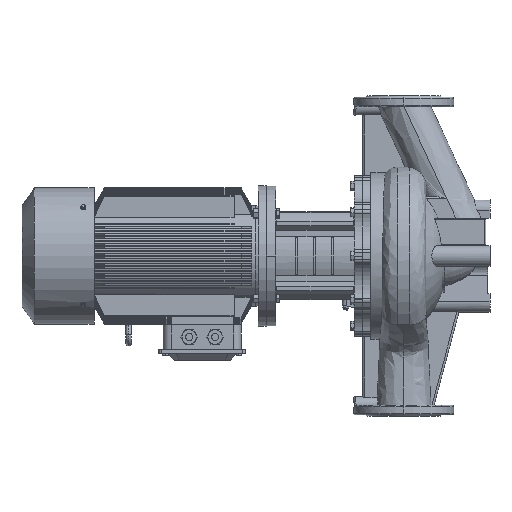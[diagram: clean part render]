
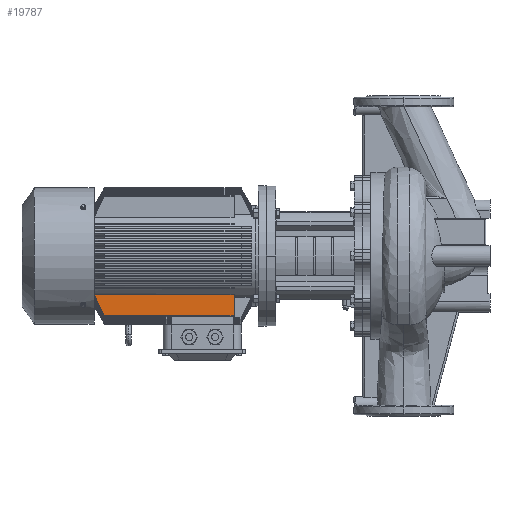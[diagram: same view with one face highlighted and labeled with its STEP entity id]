
A CAD part, left-side view. The second image highlights one B-rep face of the part: STEP entity #19787.
In plain terms, the highlighted planar face has unit normal (-1, 0, 0).
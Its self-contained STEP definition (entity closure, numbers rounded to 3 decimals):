
#425 = CARTESIAN_POINT ( 'NONE',  ( -80.863, 774., -96.368 ) ) ;
#3742 = CARTESIAN_POINT ( 'NONE',  ( -80.863, 765.353, -115.239 ) ) ;
#4096 = CARTESIAN_POINT ( 'NONE',  ( -80.863, 767.793, -110.033 ) ) ;
#5795 = CARTESIAN_POINT ( 'NONE',  ( -80.863, 770.054, -105.169 ) ) ;
#6335 = EDGE_CURVE ( 'NONE', #60501, #20658, #41556, .T. ) ;
#8453 = AXIS2_PLACEMENT_3D ( 'NONE', #14333, #13989, #56950 ) ;
#9850 = CARTESIAN_POINT ( 'NONE',  ( -80.863, 767.684, -110.268 ) ) ;
#11173 = CARTESIAN_POINT ( 'NONE',  ( -80.863, 753.143, -140.307 ) ) ;
#11536 = CARTESIAN_POINT ( 'NONE',  ( -80.863, 760.71, -124.934 ) ) ;
#12861 = ORIENTED_EDGE ( 'NONE', *, *, #6335, .T. ) ;
#13657 = DIRECTION ( 'NONE',  ( 0., -1., 0. ) ) ;
#13989 = DIRECTION ( 'NONE',  ( 1., 0., 0. ) ) ;
#14333 = CARTESIAN_POINT ( 'NONE',  ( -80.863, 774., -149.537 ) ) ;
#14861 = CARTESIAN_POINT ( 'NONE',  ( -80.863, 762.693, -120.828 ) ) ;
#15212 = CARTESIAN_POINT ( 'NONE',  ( -80.863, 757.486, -131.539 ) ) ;
#16542 = CARTESIAN_POINT ( 'NONE',  ( -80.863, 767.887, -109.832 ) ) ;
#17431 = VERTEX_POINT ( 'NONE', #27380 ) ;
#19787 = ADVANCED_FACE ( 'NONE', ( #62997 ), #62639, .F. ) ;
#19881 = CARTESIAN_POINT ( 'NONE',  ( -80.863, 766.641, -112.5 ) ) ;
#20601 = CARTESIAN_POINT ( 'NONE',  ( -80.863, 767.894, -109.816 ) ) ;
#20658 = VERTEX_POINT ( 'NONE', #27518 ) ;
#20951 = CARTESIAN_POINT ( 'NONE',  ( -80.863, 767.871, -109.865 ) ) ;
#25265 = CARTESIAN_POINT ( 'NONE',  ( -80.863, 761.367, -123.575 ) ) ;
#25487 = LINE ( 'NONE', #63722, #63055 ) ;
#26331 = CARTESIAN_POINT ( 'NONE',  ( -80.863, 765.872, -114.138 ) ) ;
#26556 = DIRECTION ( 'NONE',  ( 0., 0., -1. ) ) ;
#27380 = CARTESIAN_POINT ( 'NONE',  ( -80.863, 424.4, -96.368 ) ) ;
#27518 = CARTESIAN_POINT ( 'NONE',  ( -80.863, 424.4, -149.537 ) ) ;
#27671 = CARTESIAN_POINT ( 'NONE',  ( -80.863, 748.481, -149.537 ) ) ;
#30843 = CARTESIAN_POINT ( 'NONE',  ( -80.863, 774., -149.537 ) ) ;
#33018 = CARTESIAN_POINT ( 'NONE',  ( -80.863, 761.149, -124.027 ) ) ;
#33376 = CARTESIAN_POINT ( 'NONE',  ( -80.863, 756.419, -133.704 ) ) ;
#36355 = CARTESIAN_POINT ( 'NONE',  ( -80.863, 763.773, -118.57 ) ) ;
#37067 = CARTESIAN_POINT ( 'NONE',  ( -80.863, 767.848, -109.916 ) ) ;
#37929 = VECTOR ( 'NONE', #67998, 1000. ) ;
#38376 = ORIENTED_EDGE ( 'NONE', *, *, #60647, .F. ) ;
#40466 = LINE ( 'NONE', #61208, #37929 ) ;
#41556 = LINE ( 'NONE', #30843, #46663 ) ;
#42774 = CARTESIAN_POINT ( 'NONE',  ( -80.863, 761.57, -123.156 ) ) ;
#43314 = ORIENTED_EDGE ( 'NONE', *, *, #47355, .F. ) ;
#44098 = CARTESIAN_POINT ( 'NONE',  ( -80.863, 761.554, -123.188 ) ) ;
#46663 = VECTOR ( 'NONE', #13657, 1000. ) ;
#47355 = EDGE_CURVE ( 'NONE', #60501, #69359, #51425, .T. ) ;
#47781 = CARTESIAN_POINT ( 'NONE',  ( -80.863, 750.861, -144.851 ) ) ;
#49468 = CARTESIAN_POINT ( 'NONE',  ( -80.863, 772.087, -100.694 ) ) ;
#51425 = B_SPLINE_CURVE_WITH_KNOTS ( 'NONE', 3,
 ( #27671, #47781, #11173, #33376, #15212, #63862, #58519, #11536, #33018, #25265, #53501, #52794, #44098, #42774, #68891, #14861, #36355, #3742, #26331, #19881, #53145, #54830, #9850, #4096, #37067, #20951, #16542, #20601, #5795, #49468, #425 ),
 .UNSPECIFIED., .F., .F.,
 ( 4, 2, 2, 1, 1, 1, 1, 1, 1, 2, 2, 2, 2, 1, 1, 1, 1, 1, 2, 2, 4 ),
 ( 0., 0.25, 0.375, 0.438, 0.469, 0.484, 0.492, 0.496, 0.498, 0.499, 0.5, 0.625, 0.688, 0.719, 0.734, 0.742, 0.746, 0.748, 0.749, 0.75, 1. ),
 .UNSPECIFIED. ) ;
#52675 = ORIENTED_EDGE ( 'NONE', *, *, #62209, .F. ) ;
#52794 = CARTESIAN_POINT ( 'NONE',  ( -80.863, 761.531, -123.237 ) ) ;
#53145 = CARTESIAN_POINT ( 'NONE',  ( -80.863, 767.023, -111.685 ) ) ;
#53501 = CARTESIAN_POINT ( 'NONE',  ( -80.863, 761.476, -123.349 ) ) ;
#54830 = CARTESIAN_POINT ( 'NONE',  ( -80.863, 767.464, -110.74 ) ) ;
#55313 = CARTESIAN_POINT ( 'NONE',  ( -80.863, 748.481, -149.537 ) ) ;
#56950 = DIRECTION ( 'NONE',  ( 0., -1., 0. ) ) ;
#58519 = CARTESIAN_POINT ( 'NONE',  ( -80.863, 759.824, -126.759 ) ) ;
#60501 = VERTEX_POINT ( 'NONE', #55313 ) ;
#60647 = EDGE_CURVE ( 'NONE', #17431, #20658, #25487, .T. ) ;
#61208 = CARTESIAN_POINT ( 'NONE',  ( -80.863, 774., -96.368 ) ) ;
#62209 = EDGE_CURVE ( 'NONE', #69359, #17431, #40466, .T. ) ;
#62639 = PLANE ( 'NONE',  #8453 ) ;
#62997 = FACE_OUTER_BOUND ( 'NONE', #67988, .T. ) ;
#63055 = VECTOR ( 'NONE', #26556, 1000. ) ;
#63722 = CARTESIAN_POINT ( 'NONE',  ( -80.863, 424.4, -149.537 ) ) ;
#63862 = CARTESIAN_POINT ( 'NONE',  ( -80.863, 759.051, -128.344 ) ) ;
#67714 = CARTESIAN_POINT ( 'NONE',  ( -80.863, 774., -96.368 ) ) ;
#67988 = EDGE_LOOP ( 'NONE', ( #38376, #52675, #43314, #12861 ) ) ;
#67998 = DIRECTION ( 'NONE',  ( 0., -1., 0. ) ) ;
#68891 = CARTESIAN_POINT ( 'NONE',  ( -80.863, 761.576, -123.142 ) ) ;
#69359 = VERTEX_POINT ( 'NONE', #67714 ) ;
